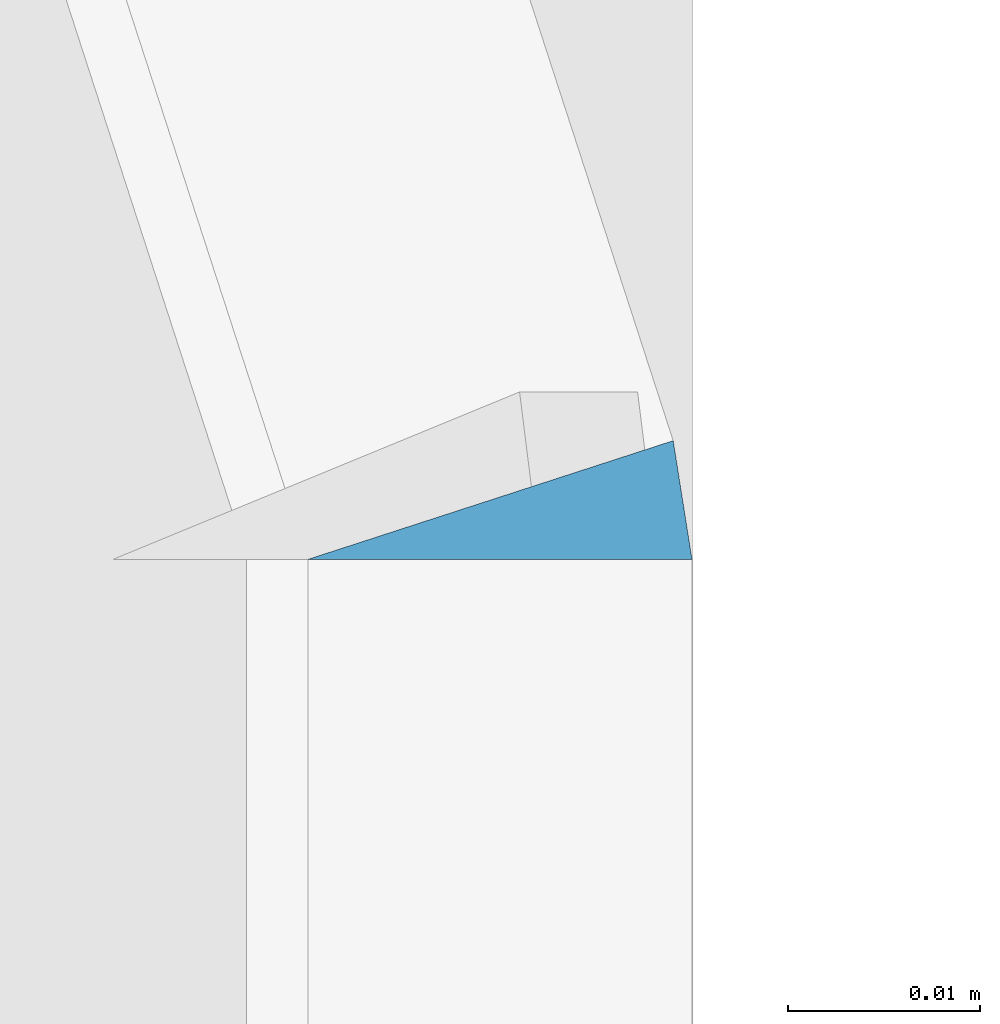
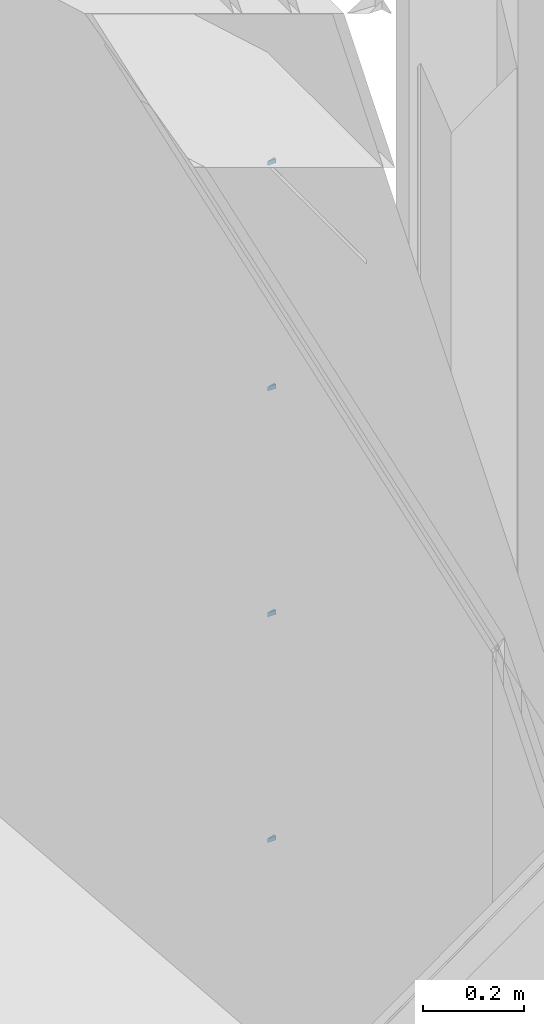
# One storey, part 368 of 583: 4 slabs.
"""IFC2X3 building model written with IfcOpenShell, lengths in metres."""

from ifc_helpers import new_model, entity, si_unit, converted_unit, derived_unit, money_unit, direction, frame, origin_with_axes, place, context, subcontext, project, spatial, faceted_brep, material, type_object, element, save


model = new_model("IFC2X3")

# Units and contexts
model_context = context("Model", 3, precision=1e-05, world=origin_with_axes(), true_north=direction((0.0, 1.0)))
body_context = subcontext(model_context, "Body", "Model", "MODEL_VIEW", scale=1.0)
ifc_project = project(units=[si_unit("LENGTHUNIT", "METRE"), si_unit("AREAUNIT", "SQUARE_METRE"), si_unit("VOLUMEUNIT", "CUBIC_METRE"), si_unit("ABSORBEDDOSEUNIT", "GRAY"), si_unit("AMOUNTOFSUBSTANCEUNIT", "MOLE"), si_unit("DOSEEQUIVALENTUNIT", "SIEVERT"), si_unit("ELECTRICCAPACITANCEUNIT", "FARAD"), si_unit("ELECTRICCHARGEUNIT", "COULOMB"), si_unit("ELECTRICCONDUCTANCEUNIT", "SIEMENS"), si_unit("ELECTRICCURRENTUNIT", "AMPERE"), si_unit("ELECTRICRESISTANCEUNIT", "OHM"), si_unit("ELECTRICVOLTAGEUNIT", "VOLT"), si_unit("ENERGYUNIT", "JOULE"), si_unit("FORCEUNIT", "NEWTON"), si_unit("FREQUENCYUNIT", "HERTZ"), si_unit("ILLUMINANCEUNIT", "LUX"), si_unit("INDUCTANCEUNIT", "HENRY"), si_unit("LUMINOUSFLUXUNIT", "LUMEN"), si_unit("LUMINOUSINTENSITYUNIT", "CANDELA"), si_unit("MAGNETICFLUXDENSITYUNIT", "TESLA"), si_unit("MAGNETICFLUXUNIT", "WEBER"), si_unit("MASSUNIT", "GRAM"), converted_unit("PLANEANGLEUNIT", "degree", entity("IfcReal", 0.0174532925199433), si_unit("PLANEANGLEUNIT", "RADIAN"), dimensions=[0, 0, 0, 0, 0, 0, 0]), si_unit("POWERUNIT", "WATT"), si_unit("PRESSUREUNIT", "PASCAL"), si_unit("RADIOACTIVITYUNIT", "BECQUEREL"), si_unit("SOLIDANGLEUNIT", "STERADIAN"), si_unit("THERMODYNAMICTEMPERATUREUNIT", "KELVIN"), si_unit("TIMEUNIT", "SECOND"), derived_unit("ACCELERATIONUNIT", [(si_unit("LENGTHUNIT", "METRE"), 1), (si_unit("TIMEUNIT", "SECOND"), -2)]), derived_unit("ANGULARVELOCITYUNIT", [(converted_unit("PLANEANGLEUNIT", "degree", entity("IfcReal", 0.0174532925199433), si_unit("PLANEANGLEUNIT", "RADIAN"), dimensions=[0, 0, 0, 0, 0, 0, 0]), 1), (si_unit("TIMEUNIT", "SECOND"), -1)]), derived_unit("CURVATUREUNIT", [(converted_unit("PLANEANGLEUNIT", "degree", entity("IfcReal", 0.0174532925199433), si_unit("PLANEANGLEUNIT", "RADIAN"), dimensions=[0, 0, 0, 0, 0, 0, 0]), 1), (si_unit("LENGTHUNIT", "METRE"), -1)]), derived_unit("DYNAMICVISCOSITYUNIT", [(si_unit("PRESSUREUNIT", "PASCAL"), 1), (si_unit("TIMEUNIT", "SECOND"), 1)]), derived_unit("HEATFLUXDENSITYUNIT", [(si_unit("POWERUNIT", "WATT"), 1), (si_unit("LENGTHUNIT", "METRE"), -2)]), derived_unit("HEATINGVALUEUNIT", [(si_unit("ENERGYUNIT", "JOULE"), 1), (si_unit("MASSUNIT", "GRAM"), -1)]), derived_unit("INTEGERCOUNTRATEUNIT", [(si_unit("TIMEUNIT", "SECOND"), -1)]), derived_unit("IONCONCENTRATIONUNIT", [(si_unit("MASSUNIT", "GRAM"), 1), (si_unit("VOLUMEUNIT", "CUBIC_METRE"), -1)]), derived_unit("ISOTHERMALMOISTURECAPACITYUNIT", [(si_unit("VOLUMEUNIT", "CUBIC_METRE"), 1), (si_unit("MASSUNIT", "GRAM"), -1)]), derived_unit("KINEMATICVISCOSITYUNIT", [(si_unit("AREAUNIT", "SQUARE_METRE"), 1), (si_unit("TIMEUNIT", "SECOND"), -1)]), derived_unit("LINEARFORCEUNIT", [(si_unit("FORCEUNIT", "NEWTON"), 1), (si_unit("LENGTHUNIT", "METRE"), -1)]), derived_unit("LINEARMOMENTUNIT", [(si_unit("FORCEUNIT", "NEWTON"), 1), (si_unit("LENGTHUNIT", "METRE"), -1)]), derived_unit("LINEARSTIFFNESSUNIT", [(si_unit("FORCEUNIT", "NEWTON"), 1), (si_unit("LENGTHUNIT", "METRE"), -1)]), derived_unit("LINEARVELOCITYUNIT", [(si_unit("LENGTHUNIT", "METRE"), 1), (si_unit("TIMEUNIT", "SECOND"), -1)]), derived_unit("LUMINOUSINTENSITYDISTRIBUTIONUNIT", [(si_unit("LUMINOUSINTENSITYUNIT", "CANDELA"), 1), (si_unit("LUMINOUSFLUXUNIT", "LUMEN"), -1)]), derived_unit("MASSDENSITYUNIT", [(si_unit("MASSUNIT", "GRAM"), 1), (si_unit("VOLUMEUNIT", "CUBIC_METRE"), -1)]), derived_unit("MASSFLOWRATEUNIT", [(si_unit("MASSUNIT", "GRAM"), 1), (si_unit("TIMEUNIT", "SECOND"), -1)]), derived_unit("MASSPERLENGTHUNIT", [(si_unit("MASSUNIT", "GRAM"), 1), (si_unit("LENGTHUNIT", "METRE"), -1)]), derived_unit("MODULUSOFELASTICITYUNIT", [(si_unit("FORCEUNIT", "NEWTON"), 1), (si_unit("AREAUNIT", "SQUARE_METRE"), -1)]), derived_unit("MODULUSOFLINEARSUBGRADEREACTIONUNIT", [(si_unit("FORCEUNIT", "NEWTON"), 1), (si_unit("LENGTHUNIT", "METRE"), -2)]), derived_unit("MODULUSOFROTATIONALSUBGRADEREACTIONUNIT", [(si_unit("FORCEUNIT", "NEWTON"), 1), (si_unit("LENGTHUNIT", "METRE"), 1)]), derived_unit("MODULUSOFSUBGRADEREACTIONUNIT", [(si_unit("FORCEUNIT", "NEWTON"), 1), (si_unit("VOLUMEUNIT", "CUBIC_METRE"), -1)]), derived_unit("MOISTUREDIFFUSIVITYUNIT", [(si_unit("VOLUMEUNIT", "CUBIC_METRE"), 1), (si_unit("TIMEUNIT", "SECOND"), -1)]), derived_unit("MOLECULARWEIGHTUNIT", [(si_unit("MASSUNIT", "GRAM"), 1), (si_unit("AMOUNTOFSUBSTANCEUNIT", "MOLE"), -1)]), derived_unit("PLANARFORCEUNIT", [(si_unit("FORCEUNIT", "NEWTON"), 1), (si_unit("LENGTHUNIT", "METRE"), -2)]), derived_unit("ROTATIONALFREQUENCYUNIT", [(si_unit("TIMEUNIT", "SECOND"), -1)]), derived_unit("ROTATIONALMASSUNIT", [(si_unit("MASSUNIT", "GRAM"), 1), (si_unit("LENGTHUNIT", "METRE"), 2)]), derived_unit("ROTATIONALSTIFFNESSUNIT", [(si_unit("FORCEUNIT", "NEWTON"), 1), (si_unit("LENGTHUNIT", "METRE"), 1), (converted_unit("PLANEANGLEUNIT", "degree", entity("IfcReal", 0.0174532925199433), si_unit("PLANEANGLEUNIT", "RADIAN"), dimensions=[0, 0, 0, 0, 0, 0, 0]), -1)]), derived_unit("SECTIONAREAINTEGRALUNIT", [(si_unit("LENGTHUNIT", "METRE"), 5)]), derived_unit("SECTIONMODULUSUNIT", [(si_unit("LENGTHUNIT", "METRE"), 3)]), derived_unit("SHEARMODULUSUNIT", [(si_unit("FORCEUNIT", "NEWTON"), 1), (si_unit("AREAUNIT", "SQUARE_METRE"), -1)]), derived_unit("SOUNDPOWERUNIT", [(si_unit("ENERGYUNIT", "JOULE"), 1), (si_unit("TIMEUNIT", "SECOND"), -1)]), derived_unit("SPECIFICHEATCAPACITYUNIT", [(si_unit("FORCEUNIT", "NEWTON"), 1), (si_unit("MASSUNIT", "GRAM"), -1), (si_unit("THERMODYNAMICTEMPERATUREUNIT", "KELVIN"), -1)]), derived_unit("TEMPERATUREGRADIENTUNIT", [(si_unit("THERMODYNAMICTEMPERATUREUNIT", "KELVIN"), 1), (si_unit("LENGTHUNIT", "METRE"), -1)]), derived_unit("THERMALADMITTANCEUNIT", [(si_unit("POWERUNIT", "WATT"), 1), (si_unit("AREAUNIT", "SQUARE_METRE"), -1), (si_unit("THERMODYNAMICTEMPERATUREUNIT", "KELVIN"), -1)]), derived_unit("THERMALCONDUCTANCEUNIT", [(si_unit("POWERUNIT", "WATT"), 1), (si_unit("LENGTHUNIT", "METRE"), -1), (si_unit("THERMODYNAMICTEMPERATUREUNIT", "KELVIN"), -1)]), derived_unit("THERMALEXPANSIONCOEFFICIENTUNIT", [(si_unit("THERMODYNAMICTEMPERATUREUNIT", "KELVIN"), -1)]), derived_unit("THERMALRESISTANCEUNIT", [(si_unit("AREAUNIT", "SQUARE_METRE"), 1), (si_unit("POWERUNIT", "WATT"), -1)]), derived_unit("THERMALTRANSMITTANCEUNIT", [(si_unit("POWERUNIT", "WATT"), 1), (si_unit("AREAUNIT", "SQUARE_METRE"), -1), (si_unit("THERMODYNAMICTEMPERATUREUNIT", "KELVIN"), -1)]), derived_unit("TORQUEUNIT", [(si_unit("FORCEUNIT", "NEWTON"), 1), (si_unit("LENGTHUNIT", "METRE"), 1)]), derived_unit("VAPORPERMEABILITYUNIT", [(si_unit("MASSUNIT", "GRAM"), 1), (si_unit("TIMEUNIT", "SECOND"), -1)]), derived_unit("VOLUMETRICFLOWRATEUNIT", [(si_unit("VOLUMEUNIT", "CUBIC_METRE"), 1), (si_unit("TIMEUNIT", "SECOND"), -1)]), derived_unit("WARPINGCONSTANTUNIT", [(si_unit("LENGTHUNIT", "METRE"), 6)]), derived_unit("WARPINGMOMENTUNIT", [(si_unit("FORCEUNIT", "NEWTON"), 1), (si_unit("LENGTHUNIT", "METRE"), 2)]), money_unit("GBP")], contexts=[model_context])

# Site, building, storey
site_placement = place(None, origin_with_axes())
site = spatial("IfcSite", under=ifc_project, at=site_placement, Name="Site", CompositionType="ELEMENT")
building_placement = place(site_placement, origin_with_axes())
building = spatial("IfcBuilding", under=site, at=building_placement, Name="Building01", CompositionType="ELEMENT")
storey_placement = place(building_placement, frame((0.0, 0.0, 20.78), z_axis=(0.0, 0.0, 1.0), x_axis=(1.0, 0.0, 0.0)))
storey = spatial("IfcBuildingStorey", under=building, at=storey_placement, Name="RL", CompositionType="ELEMENT", Elevation=20.78)

# Slabs
ifc_material = material(Name="A_BSUK_Roofs")
slab_type = type_object("IfcSlabType", Name="A-FloorsSlabs A_BSUK_Slabs", PredefinedType="FLOOR")
for number, where, z_axis, x_axis, name in (
    (1, (14.399021, 16.280608, -18.224976), (0.0, 1.0, 0.0), (0.0, 0.0, -1.0), "A-FloorsSlabs A_BSUK_Slabs"),
    (2, (14.399021, 16.280608, -18.772476), (0.0, 1.0, 0.0), (0.0, 0.0, -1.0), "A-FloorsSlabs A_BSUK_Slabs"),
    (3, (14.399021, 16.280608, -19.319976), (0.0, 1.0, 0.0), (0.0, 0.0, -1.0), "A-FloorsSlabs A_BSUK_Slabs"),
    (4, (14.399021, 16.280608, -19.867476), (0.0, 1.0, 0.0), (0.0, 0.0, -1.0), "A-FloorsSlabs A_BSUK_Slabs"),
):
    element("IfcSlab", number, at=place(storey_placement, frame(where, z_axis=z_axis, x_axis=x_axis)), inside=storey, type_object=slab_type, material=ifc_material, Name=name, ObjectType="A-FloorsSlabs A_BSUK_Slabs", context=body_context, shape_type="Brep", body=[
        faceted_brep([(0.0, -0.000979, -0.00618), (0.01, -0.000979, -0.00618), (0.01, 0.0, 0.0), (0.0, 0.0, 0.0), (0.0, 0.019021, -0.00618), (0.01, 0.019021, -0.00618)], [[[0, 1, 2, 3]], [[4, 5, 1, 0]], [[3, 2, 5, 4]], [[1, 5, 2]], [[3, 4, 0]]]),
    ])

save(model, "model.ifc")
